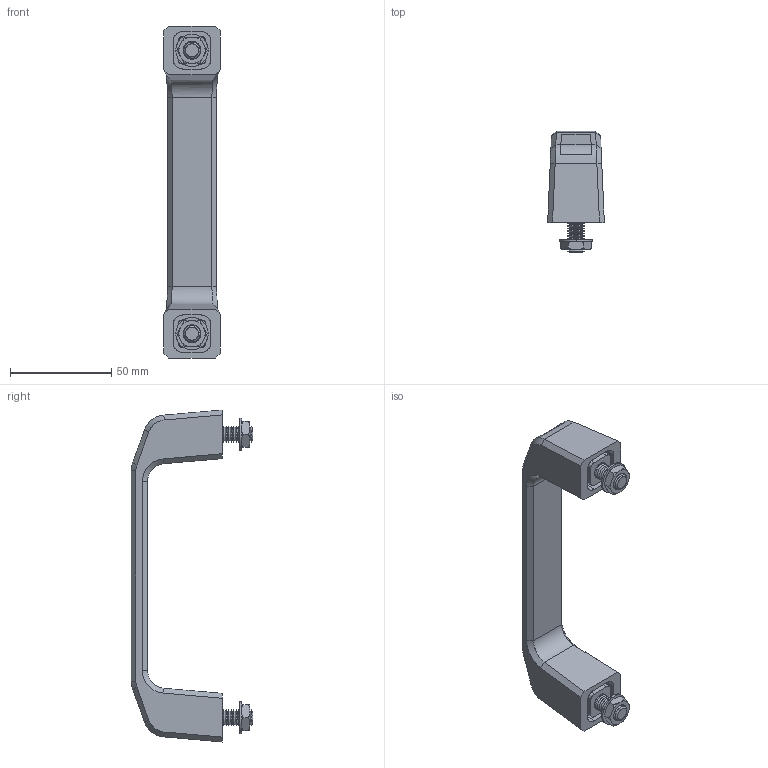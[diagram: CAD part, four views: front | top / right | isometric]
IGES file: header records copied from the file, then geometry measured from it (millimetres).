
Start section: SolidWorks IGES file using analytic representation for surfaces
Global section: file name: C:\Documents and Settings\IANO\Desktop\Temp File\Process pending\PCN pending\79100_v2\79100_v2_20170116_IGES\79100.W0140-3.igs; native system: SolidWorks 2009; preprocessor: SolidWorks 2009; author: IANO; date: 170310.123930; units: millimetre
Bounding box: 28 x 60 x 164 mm (x, y, z)
Surface area: 28453.6 mm2 (no closed solid volume)
Topology: 0 solids, 0 shells, 414 faces, 3424 edges, 3420 vertices
Faces by surface type: revolution 284, bspline 130
